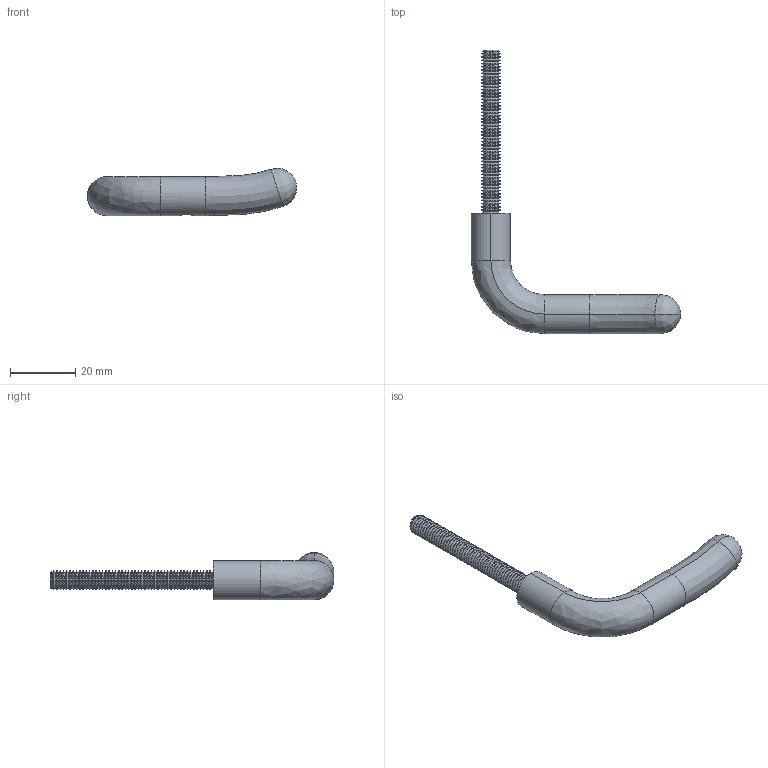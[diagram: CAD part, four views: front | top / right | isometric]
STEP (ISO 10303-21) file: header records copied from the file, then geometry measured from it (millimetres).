
FILE_DESCRIPTION(/* description */ (''),/* implementation_level */ '2;1');
FILE_NAME(/* name */ 'Option1',/* time_stamp */ '2026-08-18T16:49:33+02:00',/* author */ (''),/* organization */ (''),/* preprocessor_version */ 'ST-DEVELOPER v19.2',/* originating_system */ 'Rhino 8.34',/* authorisation */ '');
FILE_SCHEMA (('CONFIG_CONTROL_DESIGN'));
Length unit declared in the file: millimetre
Products named in the file (1): Document
Bounding box: 64.25 x 87 x 14.58 mm (x, y, z)
Volume: 10081.2 mm3; surface area: 4797.4 mm2
Topology: 1 solids, 1 shells, 417 faces, 883 edges, 467 vertices
Faces by surface type: bspline 310, cylinder 104, plane 3
Entity records: 15756 total; most frequent: CARTESIAN_POINT 7879, ORIENTED_EDGE 1762, DIRECTION 1229, EDGE_CURVE 881, AXIS2_PLACEMENT_3D 668, TRIMMED_CURVE 559, CIRCLE 559, VERTEX_POINT 467
